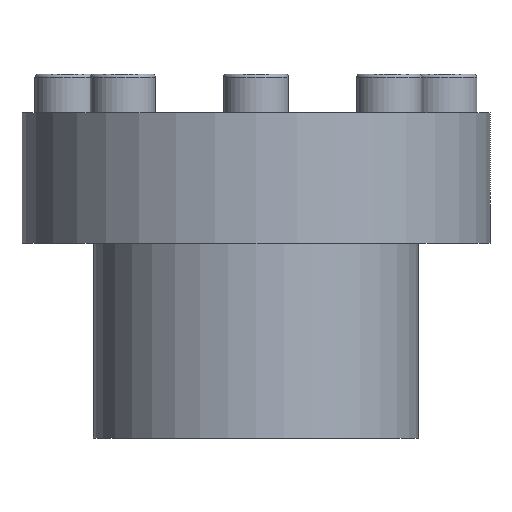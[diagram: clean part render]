
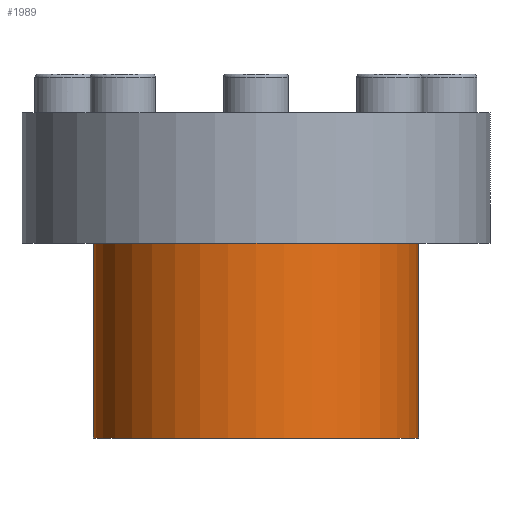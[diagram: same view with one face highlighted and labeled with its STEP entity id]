
A CAD part, front view. The second image highlights one B-rep face of the part: STEP entity #1989.
In plain terms, the highlighted cylindrical face has radius 25 mm (diameter 50 mm), a partial arc.
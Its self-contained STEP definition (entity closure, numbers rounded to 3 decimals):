
#31 = VERTEX_POINT ( 'NONE', #1929 ) ;
#42 = AXIS2_PLACEMENT_3D ( 'NONE', #3025, #2285, #2053 ) ;
#48 = VERTEX_POINT ( 'NONE', #2623 ) ;
#183 = CARTESIAN_POINT ( 'NONE',  ( 0., 0., -20. ) ) ;
#252 = CIRCLE ( 'NONE', #1990, 25. ) ;
#278 = DIRECTION ( 'NONE',  ( 1., 0., 0. ) ) ;
#318 = DIRECTION ( 'NONE',  ( 0., 0., 1. ) ) ;
#690 = CYLINDRICAL_SURFACE ( 'NONE', #1790, 25. ) ;
#771 = FACE_OUTER_BOUND ( 'NONE', #1110, .T. ) ;
#788 = CARTESIAN_POINT ( 'NONE',  ( 25., 0., 0. ) ) ;
#814 = DIRECTION ( 'NONE',  ( 0., 0., 1. ) ) ;
#821 = ORIENTED_EDGE ( 'NONE', *, *, #1761, .F. ) ;
#880 = CIRCLE ( 'NONE', #42, 25. ) ;
#960 = CARTESIAN_POINT ( 'NONE',  ( -25., 0., -20. ) ) ;
#968 = ORIENTED_EDGE ( 'NONE', *, *, #2261, .F. ) ;
#1110 = EDGE_LOOP ( 'NONE', ( #821, #2052, #1916, #968 ) ) ;
#1135 = DIRECTION ( 'NONE',  ( 1., 0., 0. ) ) ;
#1158 = LINE ( 'NONE', #788, #2097 ) ;
#1167 = EDGE_CURVE ( 'NONE', #31, #48, #880, .T. ) ;
#1205 = LINE ( 'NONE', #2869, #1963 ) ;
#1403 = CARTESIAN_POINT ( 'NONE',  ( 0., 0., 0. ) ) ;
#1567 = CARTESIAN_POINT ( 'NONE',  ( 25., 0., -20. ) ) ;
#1691 = VERTEX_POINT ( 'NONE', #960 ) ;
#1761 = EDGE_CURVE ( 'NONE', #31, #1691, #1205, .T. ) ;
#1790 = AXIS2_PLACEMENT_3D ( 'NONE', #1403, #2357, #278 ) ;
#1916 = ORIENTED_EDGE ( 'NONE', *, *, #2880, .T. ) ;
#1929 = CARTESIAN_POINT ( 'NONE',  ( -25., 0., -50. ) ) ;
#1963 = VECTOR ( 'NONE', #814, 1000. ) ;
#1989 = ADVANCED_FACE ( 'NONE', ( #771 ), #690, .T. ) ;
#1990 = AXIS2_PLACEMENT_3D ( 'NONE', #183, #2476, #1135 ) ;
#2052 = ORIENTED_EDGE ( 'NONE', *, *, #1167, .T. ) ;
#2053 = DIRECTION ( 'NONE',  ( 1., 0., 0. ) ) ;
#2097 = VECTOR ( 'NONE', #318, 1000. ) ;
#2261 = EDGE_CURVE ( 'NONE', #1691, #3026, #252, .T. ) ;
#2285 = DIRECTION ( 'NONE',  ( 0., 0., 1. ) ) ;
#2357 = DIRECTION ( 'NONE',  ( 0., 0., 1. ) ) ;
#2476 = DIRECTION ( 'NONE',  ( 0., 0., 1. ) ) ;
#2623 = CARTESIAN_POINT ( 'NONE',  ( 25., 0., -50. ) ) ;
#2869 = CARTESIAN_POINT ( 'NONE',  ( -25., 0., 0. ) ) ;
#2880 = EDGE_CURVE ( 'NONE', #48, #3026, #1158, .T. ) ;
#3025 = CARTESIAN_POINT ( 'NONE',  ( 0., 0., -50. ) ) ;
#3026 = VERTEX_POINT ( 'NONE', #1567 ) ;
